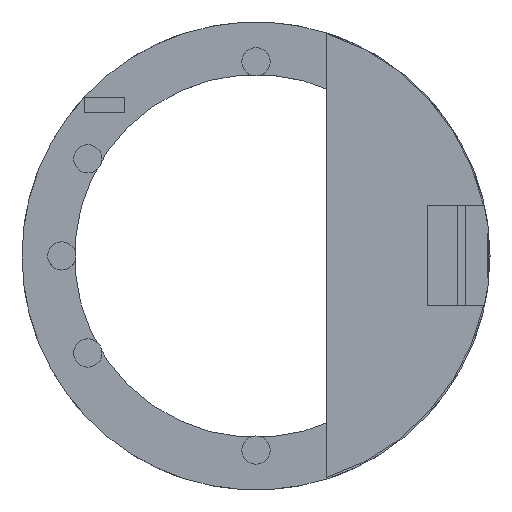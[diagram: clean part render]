
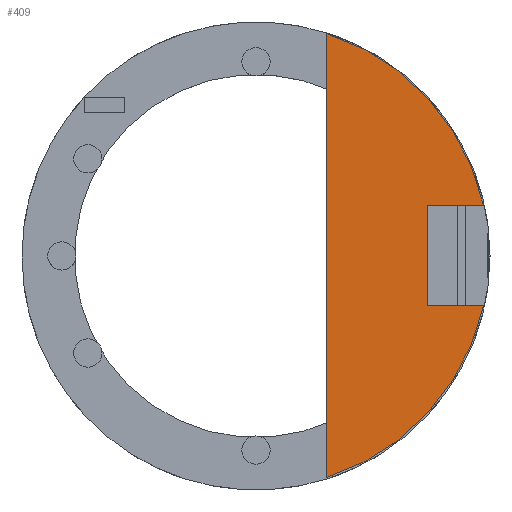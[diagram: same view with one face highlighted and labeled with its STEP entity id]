
A CAD part, top view. The second image highlights one B-rep face of the part: STEP entity #409.
In plain terms, the highlighted planar face has unit normal (0, 0, 1).
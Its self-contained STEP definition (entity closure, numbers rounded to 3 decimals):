
#55 = CYLINDRICAL_SURFACE('',#56,46.2);
#56 = AXIS2_PLACEMENT_3D('',#57,#58,#59);
#57 = CARTESIAN_POINT('',(0.,0.,52.858));
#58 = DIRECTION('',(-0.,-0.,-1.));
#59 = DIRECTION('',(1.,0.,0.));
#80 = VERTEX_POINT('',#81);
#81 = CARTESIAN_POINT('',(14.,-44.028,54.858));
#95 = PLANE('',#96);
#96 = AXIS2_PLACEMENT_3D('',#97,#98,#99);
#97 = CARTESIAN_POINT('',(14.,-50.,48.858));
#98 = DIRECTION('',(1.,0.,0.));
#99 = DIRECTION('',(0.,0.,1.));
#107 = EDGE_CURVE('',#108,#80,#110,.T.);
#108 = VERTEX_POINT('',#109);
#109 = CARTESIAN_POINT('',(45.105,-10.,54.858));
#110 = SURFACE_CURVE('',#111,(#116,#123),.PCURVE_S1.);
#111 = CIRCLE('',#112,46.2);
#112 = AXIS2_PLACEMENT_3D('',#113,#114,#115);
#113 = CARTESIAN_POINT('',(0.,0.,54.858));
#114 = DIRECTION('',(0.,0.,-1.));
#115 = DIRECTION('',(0.303,0.953,0.));
#116 = PCURVE('',#55,#117);
#117 = DEFINITIONAL_REPRESENTATION('',(#118),#122);
#118 = LINE('',#119,#120);
#119 = CARTESIAN_POINT('',(-7.546,-2.));
#120 = VECTOR('',#121,1.);
#121 = DIRECTION('',(1.,-0.));
#122 = ( GEOMETRIC_REPRESENTATION_CONTEXT(2) 
PARAMETRIC_REPRESENTATION_CONTEXT() REPRESENTATION_CONTEXT('2D SPACE',''
  ) );
#123 = PCURVE('',#124,#129);
#124 = PLANE('',#125);
#125 = AXIS2_PLACEMENT_3D('',#126,#127,#128);
#126 = CARTESIAN_POINT('',(0.,0.,
    54.858));
#127 = DIRECTION('',(0.,0.,1.));
#128 = DIRECTION('',(1.,0.,-0.));
#129 = DEFINITIONAL_REPRESENTATION('',(#130),#138);
#130 = ( BOUNDED_CURVE() B_SPLINE_CURVE(2,(#131,#132,#133,#134,#135,#136
,#137),.UNSPECIFIED.,.T.,.F.) B_SPLINE_CURVE_WITH_KNOTS((1,2,2,2,2,1),(
    -2.094,0.,2.094,4.189,6.283,
8.378),.UNSPECIFIED.) CURVE() GEOMETRIC_REPRESENTATION_ITEM() 
RATIONAL_B_SPLINE_CURVE((1.,0.5,1.,0.5,1.,0.5,1.)) REPRESENTATION_ITEM(
  '') );
#131 = CARTESIAN_POINT('',(14.,44.028));
#132 = CARTESIAN_POINT('',(90.258,19.779));
#133 = CARTESIAN_POINT('',(31.129,-34.138));
#134 = CARTESIAN_POINT('',(-28.,-88.055));
#135 = CARTESIAN_POINT('',(-45.129,-9.89));
#136 = CARTESIAN_POINT('',(-62.258,68.276));
#137 = CARTESIAN_POINT('',(14.,44.028));
#138 = ( GEOMETRIC_REPRESENTATION_CONTEXT(2) 
PARAMETRIC_REPRESENTATION_CONTEXT() REPRESENTATION_CONTEXT('2D SPACE',''
  ) );
#154 = PLANE('',#155);
#155 = AXIS2_PLACEMENT_3D('',#156,#157,#158);
#156 = CARTESIAN_POINT('',(34.,-10.,51.358));
#157 = DIRECTION('',(0.,1.,0.));
#158 = DIRECTION('',(0.,0.,1.));
#232 = PLANE('',#233);
#233 = AXIS2_PLACEMENT_3D('',#234,#235,#236);
#234 = CARTESIAN_POINT('',(34.,-10.,51.358));
#235 = DIRECTION('',(1.,0.,0.));
#236 = DIRECTION('',(0.,0.,1.));
#260 = PLANE('',#261);
#261 = AXIS2_PLACEMENT_3D('',#262,#263,#264);
#262 = CARTESIAN_POINT('',(34.,10.,51.358));
#263 = DIRECTION('',(0.,1.,0.));
#264 = DIRECTION('',(0.,0.,1.));
#287 = CYLINDRICAL_SURFACE('',#288,46.2);
#288 = AXIS2_PLACEMENT_3D('',#289,#290,#291);
#289 = CARTESIAN_POINT('',(0.,0.,52.858));
#290 = DIRECTION('',(-0.,-0.,-1.));
#291 = DIRECTION('',(1.,0.,0.));
#366 = VERTEX_POINT('',#367);
#367 = CARTESIAN_POINT('',(34.,-10.,54.858));
#388 = EDGE_CURVE('',#108,#366,#389,.T.);
#389 = SURFACE_CURVE('',#390,(#394,#401),.PCURVE_S1.);
#390 = LINE('',#391,#392);
#391 = CARTESIAN_POINT('',(17.,-10.,54.858));
#392 = VECTOR('',#393,1.);
#393 = DIRECTION('',(-1.,0.,0.));
#394 = PCURVE('',#154,#395);
#395 = DEFINITIONAL_REPRESENTATION('',(#396),#400);
#396 = LINE('',#397,#398);
#397 = CARTESIAN_POINT('',(3.5,-17.));
#398 = VECTOR('',#399,1.);
#399 = DIRECTION('',(0.,-1.));
#400 = ( GEOMETRIC_REPRESENTATION_CONTEXT(2) 
PARAMETRIC_REPRESENTATION_CONTEXT() REPRESENTATION_CONTEXT('2D SPACE',''
  ) );
#401 = PCURVE('',#124,#402);
#402 = DEFINITIONAL_REPRESENTATION('',(#403),#407);
#403 = LINE('',#404,#405);
#404 = CARTESIAN_POINT('',(17.,-10.));
#405 = VECTOR('',#406,1.);
#406 = DIRECTION('',(-1.,0.));
#407 = ( GEOMETRIC_REPRESENTATION_CONTEXT(2) 
PARAMETRIC_REPRESENTATION_CONTEXT() REPRESENTATION_CONTEXT('2D SPACE',''
  ) );
#409 = ADVANCED_FACE('',(#410),#124,.T.);
#410 = FACE_BOUND('',#411,.T.);
#411 = EDGE_LOOP('',(#412,#435,#436,#437,#460,#483));
#412 = ORIENTED_EDGE('',*,*,#413,.F.);
#413 = EDGE_CURVE('',#80,#414,#416,.T.);
#414 = VERTEX_POINT('',#415);
#415 = CARTESIAN_POINT('',(14.,44.028,54.858));
#416 = SURFACE_CURVE('',#417,(#421,#428),.PCURVE_S1.);
#417 = LINE('',#418,#419);
#418 = CARTESIAN_POINT('',(14.,-25.,54.858));
#419 = VECTOR('',#420,1.);
#420 = DIRECTION('',(0.,1.,0.));
#421 = PCURVE('',#124,#422);
#422 = DEFINITIONAL_REPRESENTATION('',(#423),#427);
#423 = LINE('',#424,#425);
#424 = CARTESIAN_POINT('',(14.,-25.));
#425 = VECTOR('',#426,1.);
#426 = DIRECTION('',(0.,1.));
#427 = ( GEOMETRIC_REPRESENTATION_CONTEXT(2) 
PARAMETRIC_REPRESENTATION_CONTEXT() REPRESENTATION_CONTEXT('2D SPACE',''
  ) );
#428 = PCURVE('',#95,#429);
#429 = DEFINITIONAL_REPRESENTATION('',(#430),#434);
#430 = LINE('',#431,#432);
#431 = CARTESIAN_POINT('',(6.,-25.));
#432 = VECTOR('',#433,1.);
#433 = DIRECTION('',(0.,-1.));
#434 = ( GEOMETRIC_REPRESENTATION_CONTEXT(2) 
PARAMETRIC_REPRESENTATION_CONTEXT() REPRESENTATION_CONTEXT('2D SPACE',''
  ) );
#435 = ORIENTED_EDGE('',*,*,#107,.F.);
#436 = ORIENTED_EDGE('',*,*,#388,.T.);
#437 = ORIENTED_EDGE('',*,*,#438,.T.);
#438 = EDGE_CURVE('',#366,#439,#441,.T.);
#439 = VERTEX_POINT('',#440);
#440 = CARTESIAN_POINT('',(34.,10.,54.858));
#441 = SURFACE_CURVE('',#442,(#446,#453),.PCURVE_S1.);
#442 = LINE('',#443,#444);
#443 = CARTESIAN_POINT('',(34.,-5.,54.858));
#444 = VECTOR('',#445,1.);
#445 = DIRECTION('',(0.,1.,0.));
#446 = PCURVE('',#124,#447);
#447 = DEFINITIONAL_REPRESENTATION('',(#448),#452);
#448 = LINE('',#449,#450);
#449 = CARTESIAN_POINT('',(34.,-5.));
#450 = VECTOR('',#451,1.);
#451 = DIRECTION('',(0.,1.));
#452 = ( GEOMETRIC_REPRESENTATION_CONTEXT(2) 
PARAMETRIC_REPRESENTATION_CONTEXT() REPRESENTATION_CONTEXT('2D SPACE',''
  ) );
#453 = PCURVE('',#232,#454);
#454 = DEFINITIONAL_REPRESENTATION('',(#455),#459);
#455 = LINE('',#456,#457);
#456 = CARTESIAN_POINT('',(3.5,-5.));
#457 = VECTOR('',#458,1.);
#458 = DIRECTION('',(0.,-1.));
#459 = ( GEOMETRIC_REPRESENTATION_CONTEXT(2) 
PARAMETRIC_REPRESENTATION_CONTEXT() REPRESENTATION_CONTEXT('2D SPACE',''
  ) );
#460 = ORIENTED_EDGE('',*,*,#461,.F.);
#461 = EDGE_CURVE('',#462,#439,#464,.T.);
#462 = VERTEX_POINT('',#463);
#463 = CARTESIAN_POINT('',(45.105,10.,54.858));
#464 = SURFACE_CURVE('',#465,(#469,#476),.PCURVE_S1.);
#465 = LINE('',#466,#467);
#466 = CARTESIAN_POINT('',(17.,10.,54.858));
#467 = VECTOR('',#468,1.);
#468 = DIRECTION('',(-1.,0.,0.));
#469 = PCURVE('',#124,#470);
#470 = DEFINITIONAL_REPRESENTATION('',(#471),#475);
#471 = LINE('',#472,#473);
#472 = CARTESIAN_POINT('',(17.,10.));
#473 = VECTOR('',#474,1.);
#474 = DIRECTION('',(-1.,0.));
#475 = ( GEOMETRIC_REPRESENTATION_CONTEXT(2) 
PARAMETRIC_REPRESENTATION_CONTEXT() REPRESENTATION_CONTEXT('2D SPACE',''
  ) );
#476 = PCURVE('',#260,#477);
#477 = DEFINITIONAL_REPRESENTATION('',(#478),#482);
#478 = LINE('',#479,#480);
#479 = CARTESIAN_POINT('',(3.5,-17.));
#480 = VECTOR('',#481,1.);
#481 = DIRECTION('',(0.,-1.));
#482 = ( GEOMETRIC_REPRESENTATION_CONTEXT(2) 
PARAMETRIC_REPRESENTATION_CONTEXT() REPRESENTATION_CONTEXT('2D SPACE',''
  ) );
#483 = ORIENTED_EDGE('',*,*,#484,.F.);
#484 = EDGE_CURVE('',#414,#462,#485,.T.);
#485 = SURFACE_CURVE('',#486,(#491,#502),.PCURVE_S1.);
#486 = CIRCLE('',#487,46.2);
#487 = AXIS2_PLACEMENT_3D('',#488,#489,#490);
#488 = CARTESIAN_POINT('',(0.,0.,54.858));
#489 = DIRECTION('',(0.,0.,-1.));
#490 = DIRECTION('',(0.303,0.953,0.));
#491 = PCURVE('',#124,#492);
#492 = DEFINITIONAL_REPRESENTATION('',(#493),#501);
#493 = ( BOUNDED_CURVE() B_SPLINE_CURVE(2,(#494,#495,#496,#497,#498,#499
,#500),.UNSPECIFIED.,.T.,.F.) B_SPLINE_CURVE_WITH_KNOTS((1,2,2,2,2,1),(
    -2.094,0.,2.094,4.189,6.283,
8.378),.UNSPECIFIED.) CURVE() GEOMETRIC_REPRESENTATION_ITEM() 
RATIONAL_B_SPLINE_CURVE((1.,0.5,1.,0.5,1.,0.5,1.)) REPRESENTATION_ITEM(
  '') );
#494 = CARTESIAN_POINT('',(14.,44.028));
#495 = CARTESIAN_POINT('',(90.258,19.779));
#496 = CARTESIAN_POINT('',(31.129,-34.138));
#497 = CARTESIAN_POINT('',(-28.,-88.055));
#498 = CARTESIAN_POINT('',(-45.129,-9.89));
#499 = CARTESIAN_POINT('',(-62.258,68.276));
#500 = CARTESIAN_POINT('',(14.,44.028));
#501 = ( GEOMETRIC_REPRESENTATION_CONTEXT(2) 
PARAMETRIC_REPRESENTATION_CONTEXT() REPRESENTATION_CONTEXT('2D SPACE',''
  ) );
#502 = PCURVE('',#287,#503);
#503 = DEFINITIONAL_REPRESENTATION('',(#504),#508);
#504 = LINE('',#505,#506);
#505 = CARTESIAN_POINT('',(-7.546,-2.));
#506 = VECTOR('',#507,1.);
#507 = DIRECTION('',(1.,-0.));
#508 = ( GEOMETRIC_REPRESENTATION_CONTEXT(2) 
PARAMETRIC_REPRESENTATION_CONTEXT() REPRESENTATION_CONTEXT('2D SPACE',''
  ) );
